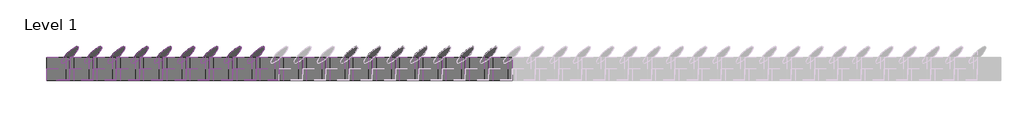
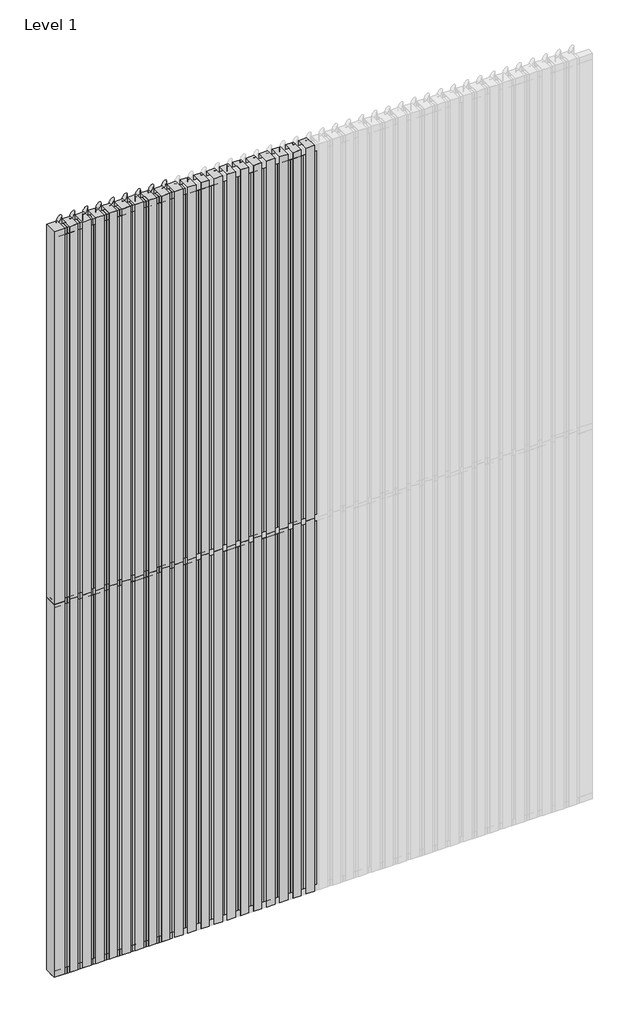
# One storey, part 1 of 4: 80 plates, 54 members.
"""IFC4 building model written with IfcOpenShell, lengths in millimetres."""

from ifc_helpers import new_model, si_unit, origin, place, context, project, spatial, transform, mapped, element, save
from components import rectangular_mullion_c274bac7, rectangular_mullion_cddbc660, rectangular_mullion_a3e25429, rectangular_mullion_ae434dd9, empty_system_panel_empty_d67cafe6, empty_system_panel_empty_80e3f5b0, empty_system_panel_empty_147de6ce

model = new_model("IFC4")

# Units and contexts
model_context = context("Model", 3, world=origin())
ifc_project = project(units=[si_unit("LENGTHUNIT", "METRE", prefix="MILLI")], contexts=[model_context])

# Site, building, storey
site = spatial("IfcSite", under=ifc_project)
building = spatial("IfcBuilding", under=site)
storey = spatial("IfcBuildingStorey", under=building, Name="Level 1", Elevation=0.0)

# Members
placement = place(None, origin())
rectangular_mullion_shape = rectangular_mullion_c274bac7(model_context)
element("IfcMember", 1, ObjectType="Rectangular Mullion : RSen_21_CWM_blade - 100 ellips - 45°_gen_duco projects", at=placement, inside=storey, context=model_context, shape_type="MappedRepresentation", body=[
    mapped(rectangular_mullion_shape, transform((1900.0, 3000.0, 0.0), x_axis=(-1.0, 0.0, 0.0), y_axis=(0.0, 1.0, 0.0), z_axis=(0.0, 0.0, -1.0))),
])
element("IfcMember", 2, ObjectType="Rectangular Mullion : RSen_21_CWM_blade - 100 ellips - 45°_gen_duco projects", at=placement, inside=storey, context=model_context, shape_type="MappedRepresentation", body=[
    mapped(rectangular_mullion_shape, transform((1800.0, 3000.0, 0.0), x_axis=(-1.0, 0.0, 0.0), y_axis=(0.0, 1.0, 0.0), z_axis=(0.0, 0.0, -1.0))),
])
element("IfcMember", 3, ObjectType="Rectangular Mullion : RSen_21_CWM_blade - 100 ellips - 45°_gen_duco projects", at=placement, inside=storey, context=model_context, shape_type="MappedRepresentation", body=[
    mapped(rectangular_mullion_shape, transform((1700.0, 3000.0, 0.0), x_axis=(-1.0, 0.0, 0.0), y_axis=(0.0, 1.0, 0.0), z_axis=(0.0, 0.0, -1.0))),
])
element("IfcMember", 4, ObjectType="Rectangular Mullion : RSen_21_CWM_blade - 100 ellips - 45°_gen_duco projects", at=placement, inside=storey, context=model_context, shape_type="MappedRepresentation", body=[
    mapped(rectangular_mullion_shape, transform((1600.0, 3000.0, 0.0), x_axis=(-1.0, 0.0, 0.0), y_axis=(0.0, 1.0, 0.0), z_axis=(0.0, 0.0, -1.0))),
])
element("IfcMember", 5, ObjectType="Rectangular Mullion : RSen_21_CWM_blade - 100 ellips - 45°_gen_duco projects", at=placement, inside=storey, context=model_context, shape_type="MappedRepresentation", body=[
    mapped(rectangular_mullion_shape, transform((1500.0, 3000.0, 0.0), x_axis=(-1.0, 0.0, 0.0), y_axis=(0.0, 1.0, 0.0), z_axis=(0.0, 0.0, -1.0))),
])
element("IfcMember", 6, ObjectType="Rectangular Mullion : RSen_21_CWM_blade - 100 ellips - 45°_gen_duco projects", at=placement, inside=storey, context=model_context, shape_type="MappedRepresentation", body=[
    mapped(rectangular_mullion_shape, transform((1400.0, 3000.0, 0.0), x_axis=(-1.0, 0.0, 0.0), y_axis=(0.0, 1.0, 0.0), z_axis=(0.0, 0.0, -1.0))),
])
element("IfcMember", 7, ObjectType="Rectangular Mullion : RSen_21_CWM_blade - 100 ellips - 45°_gen_duco projects", at=placement, inside=storey, context=model_context, shape_type="MappedRepresentation", body=[
    mapped(rectangular_mullion_shape, transform((1300.0, 3000.0, 0.0), x_axis=(-1.0, 0.0, 0.0), y_axis=(0.0, 1.0, 0.0), z_axis=(0.0, 0.0, -1.0))),
])
element("IfcMember", 8, ObjectType="Rectangular Mullion : RSen_21_CWM_blade - 100 ellips - 45°_gen_duco projects", at=placement, inside=storey, context=model_context, shape_type="MappedRepresentation", body=[
    mapped(rectangular_mullion_shape, transform((900.0, 3000.0, 0.0), x_axis=(-1.0, 0.0, 0.0), y_axis=(0.0, 1.0, 0.0), z_axis=(0.0, 0.0, -1.0))),
])
element("IfcMember", 9, ObjectType="Rectangular Mullion : RSen_21_CWM_blade - 100 ellips - 45°_gen_duco projects", at=placement, inside=storey, context=model_context, shape_type="MappedRepresentation", body=[
    mapped(rectangular_mullion_shape, transform((800.0, 3000.0, 0.0), x_axis=(-1.0, 0.0, 0.0), y_axis=(0.0, 1.0, 0.0), z_axis=(0.0, 0.0, -1.0))),
])
element("IfcMember", 10, ObjectType="Rectangular Mullion : RSen_21_CWM_blade - 100 ellips - 45°_gen_duco projects", at=placement, inside=storey, context=model_context, shape_type="MappedRepresentation", body=[
    mapped(rectangular_mullion_shape, transform((700.0, 3000.0, 0.0), x_axis=(-1.0, 0.0, 0.0), y_axis=(0.0, 1.0, 0.0), z_axis=(0.0, 0.0, -1.0))),
])
element("IfcMember", 11, ObjectType="Rectangular Mullion : RSen_21_CWM_blade - 100 ellips - 45°_gen_duco projects", at=placement, inside=storey, context=model_context, shape_type="MappedRepresentation", body=[
    mapped(rectangular_mullion_shape, transform((600.0, 3000.0, 0.0), x_axis=(-1.0, 0.0, 0.0), y_axis=(0.0, 1.0, 0.0), z_axis=(0.0, 0.0, -1.0))),
])
element("IfcMember", 12, ObjectType="Rectangular Mullion : RSen_21_CWM_blade - 100 ellips - 45°_gen_duco projects", at=placement, inside=storey, context=model_context, shape_type="MappedRepresentation", body=[
    mapped(rectangular_mullion_shape, transform((500.0, 3000.0, 0.0), x_axis=(-1.0, 0.0, 0.0), y_axis=(0.0, 1.0, 0.0), z_axis=(0.0, 0.0, -1.0))),
])
element("IfcMember", 13, ObjectType="Rectangular Mullion : RSen_21_CWM_blade - 100 ellips - 45°_gen_duco projects", at=placement, inside=storey, context=model_context, shape_type="MappedRepresentation", body=[
    mapped(rectangular_mullion_shape, transform((400.0, 3000.0, 0.0), x_axis=(-1.0, 0.0, 0.0), y_axis=(0.0, 1.0, 0.0), z_axis=(0.0, 0.0, -1.0))),
])
element("IfcMember", 14, ObjectType="Rectangular Mullion : RSen_21_CWM_blade - 100 ellips - 45°_gen_duco projects", at=placement, inside=storey, context=model_context, shape_type="MappedRepresentation", body=[
    mapped(rectangular_mullion_shape, transform((300.0, 3000.0, 0.0), x_axis=(-1.0, 0.0, 0.0), y_axis=(0.0, 1.0, 0.0), z_axis=(0.0, 0.0, -1.0))),
])
element("IfcMember", 15, ObjectType="Rectangular Mullion : RSen_21_CWM_blade - 100 ellips - 45°_gen_duco projects", at=placement, inside=storey, context=model_context, shape_type="MappedRepresentation", body=[
    mapped(rectangular_mullion_shape, transform((200.0, 3000.0, 0.0), x_axis=(-1.0, 0.0, 0.0), y_axis=(0.0, 1.0, 0.0), z_axis=(0.0, 0.0, -1.0))),
])
element("IfcMember", 16, ObjectType="Rectangular Mullion : RSen_21_CWM_blade - 100 ellips - 45°_gen_duco projects", at=placement, inside=storey, context=model_context, shape_type="MappedRepresentation", body=[
    mapped(rectangular_mullion_shape, transform((100.0, 3000.0, 0.0), x_axis=(-1.0, 0.0, 0.0), y_axis=(0.0, 1.0, 0.0), z_axis=(0.0, 0.0, -1.0))),
])
element("IfcMember", 17, ObjectType="Rectangular Mullion : RSen_21_CWM_blade - 100 ellips - 45°_gen_duco projects", at=placement, inside=storey, context=model_context, shape_type="MappedRepresentation", body=[
    mapped(rectangular_mullion_shape, transform((900.0, 3000.0, 3000.0), x_axis=(-1.0, 0.0, 0.0), y_axis=(0.0, 1.0, 0.0), z_axis=(0.0, 0.0, -1.0))),
])
element("IfcMember", 18, ObjectType="Rectangular Mullion : RSen_21_CWM_blade - 100 ellips - 45°_gen_duco projects", at=placement, inside=storey, context=model_context, shape_type="MappedRepresentation", body=[
    mapped(rectangular_mullion_shape, transform((800.0, 3000.0, 3000.0), x_axis=(-1.0, 0.0, 0.0), y_axis=(0.0, 1.0, 0.0), z_axis=(0.0, 0.0, -1.0))),
])
element("IfcMember", 19, ObjectType="Rectangular Mullion : RSen_21_CWM_blade - 100 ellips - 45°_gen_duco projects", at=placement, inside=storey, context=model_context, shape_type="MappedRepresentation", body=[
    mapped(rectangular_mullion_shape, transform((700.0, 3000.0, 3000.0), x_axis=(-1.0, 0.0, 0.0), y_axis=(0.0, 1.0, 0.0), z_axis=(0.0, 0.0, -1.0))),
])
element("IfcMember", 20, ObjectType="Rectangular Mullion : RSen_21_CWM_blade - 100 ellips - 45°_gen_duco projects", at=placement, inside=storey, context=model_context, shape_type="MappedRepresentation", body=[
    mapped(rectangular_mullion_shape, transform((600.0, 3000.0, 3000.0), x_axis=(-1.0, 0.0, 0.0), y_axis=(0.0, 1.0, 0.0), z_axis=(0.0, 0.0, -1.0))),
])
element("IfcMember", 21, ObjectType="Rectangular Mullion : RSen_21_CWM_blade - 100 ellips - 45°_gen_duco projects", at=placement, inside=storey, context=model_context, shape_type="MappedRepresentation", body=[
    mapped(rectangular_mullion_shape, transform((500.0, 3000.0, 3000.0), x_axis=(-1.0, 0.0, 0.0), y_axis=(0.0, 1.0, 0.0), z_axis=(0.0, 0.0, -1.0))),
])
element("IfcMember", 22, ObjectType="Rectangular Mullion : RSen_21_CWM_blade - 100 ellips - 45°_gen_duco projects", at=placement, inside=storey, context=model_context, shape_type="MappedRepresentation", body=[
    mapped(rectangular_mullion_shape, transform((400.0, 3000.0, 3000.0), x_axis=(-1.0, 0.0, 0.0), y_axis=(0.0, 1.0, 0.0), z_axis=(0.0, 0.0, -1.0))),
])
element("IfcMember", 23, ObjectType="Rectangular Mullion : RSen_21_CWM_blade - 100 ellips - 45°_gen_duco projects", at=placement, inside=storey, context=model_context, shape_type="MappedRepresentation", body=[
    mapped(rectangular_mullion_shape, transform((300.0, 3000.0, 3000.0), x_axis=(-1.0, 0.0, 0.0), y_axis=(0.0, 1.0, 0.0), z_axis=(0.0, 0.0, -1.0))),
])
element("IfcMember", 24, ObjectType="Rectangular Mullion : RSen_21_CWM_blade - 100 ellips - 45°_gen_duco projects", at=placement, inside=storey, context=model_context, shape_type="MappedRepresentation", body=[
    mapped(rectangular_mullion_shape, transform((200.0, 3000.0, 3000.0), x_axis=(-1.0, 0.0, 0.0), y_axis=(0.0, 1.0, 0.0), z_axis=(0.0, 0.0, -1.0))),
])
element("IfcMember", 25, ObjectType="Rectangular Mullion : RSen_21_CWM_blade - 100 ellips - 45°_gen_duco projects", at=placement, inside=storey, context=model_context, shape_type="MappedRepresentation", body=[
    mapped(rectangular_mullion_shape, transform((100.0, 3000.0, 3000.0), x_axis=(-1.0, 0.0, 0.0), y_axis=(0.0, 1.0, 0.0), z_axis=(0.0, 0.0, -1.0))),
])
rectangular_mullion_2_shape = rectangular_mullion_cddbc660(model_context)
element("IfcMember", 26, ObjectType="Rectangular Mullion : RSen_21_CWM_support profile 50x50 - left_gen_duco projects", at=placement, inside=storey, context=model_context, shape_type="MappedRepresentation", body=[
    mapped(rectangular_mullion_2_shape, transform((0.0, 3000.0, 6000.0), x_axis=(0.0, 0.0, 1.0), y_axis=(0.0, 1.0, 0.0), z_axis=(-1.0, 0.0, 0.0))),
])
element("IfcMember", 27, ObjectType="Rectangular Mullion : RSen_21_CWM_support profile 50x50 - left_gen_duco projects", at=placement, inside=storey, context=model_context, shape_type="MappedRepresentation", body=[
    mapped(rectangular_mullion_2_shape, transform((900.0, 3000.0, 6000.0), x_axis=(0.0, 0.0, 1.0), y_axis=(0.0, 1.0, 0.0), z_axis=(-1.0, 0.0, 0.0))),
])
element("IfcMember", 28, ObjectType="Rectangular Mullion : RSen_21_CWM_support profile 50x50 - left_gen_duco projects", at=placement, inside=storey, context=model_context, shape_type="MappedRepresentation", body=[
    mapped(rectangular_mullion_2_shape, transform((800.0, 3000.0, 6000.0), x_axis=(0.0, 0.0, 1.0), y_axis=(0.0, 1.0, 0.0), z_axis=(-1.0, 0.0, 0.0))),
])
element("IfcMember", 29, ObjectType="Rectangular Mullion : RSen_21_CWM_support profile 50x50 - left_gen_duco projects", at=placement, inside=storey, context=model_context, shape_type="MappedRepresentation", body=[
    mapped(rectangular_mullion_2_shape, transform((700.0, 3000.0, 6000.0), x_axis=(0.0, 0.0, 1.0), y_axis=(0.0, 1.0, 0.0), z_axis=(-1.0, 0.0, 0.0))),
])
element("IfcMember", 30, ObjectType="Rectangular Mullion : RSen_21_CWM_support profile 50x50 - left_gen_duco projects", at=placement, inside=storey, context=model_context, shape_type="MappedRepresentation", body=[
    mapped(rectangular_mullion_2_shape, transform((600.0, 3000.0, 6000.0), x_axis=(0.0, 0.0, 1.0), y_axis=(0.0, 1.0, 0.0), z_axis=(-1.0, 0.0, 0.0))),
])
element("IfcMember", 31, ObjectType="Rectangular Mullion : RSen_21_CWM_support profile 50x50 - left_gen_duco projects", at=placement, inside=storey, context=model_context, shape_type="MappedRepresentation", body=[
    mapped(rectangular_mullion_2_shape, transform((500.0, 3000.0, 6000.0), x_axis=(0.0, 0.0, 1.0), y_axis=(0.0, 1.0, 0.0), z_axis=(-1.0, 0.0, 0.0))),
])
element("IfcMember", 32, ObjectType="Rectangular Mullion : RSen_21_CWM_support profile 50x50 - left_gen_duco projects", at=placement, inside=storey, context=model_context, shape_type="MappedRepresentation", body=[
    mapped(rectangular_mullion_2_shape, transform((400.0, 3000.0, 6000.0), x_axis=(0.0, 0.0, 1.0), y_axis=(0.0, 1.0, 0.0), z_axis=(-1.0, 0.0, 0.0))),
])
element("IfcMember", 33, ObjectType="Rectangular Mullion : RSen_21_CWM_support profile 50x50 - left_gen_duco projects", at=placement, inside=storey, context=model_context, shape_type="MappedRepresentation", body=[
    mapped(rectangular_mullion_2_shape, transform((300.0, 3000.0, 6000.0), x_axis=(0.0, 0.0, 1.0), y_axis=(0.0, 1.0, 0.0), z_axis=(-1.0, 0.0, 0.0))),
])
element("IfcMember", 34, ObjectType="Rectangular Mullion : RSen_21_CWM_support profile 50x50 - left_gen_duco projects", at=placement, inside=storey, context=model_context, shape_type="MappedRepresentation", body=[
    mapped(rectangular_mullion_2_shape, transform((200.0, 3000.0, 6000.0), x_axis=(0.0, 0.0, 1.0), y_axis=(0.0, 1.0, 0.0), z_axis=(-1.0, 0.0, 0.0))),
])
element("IfcMember", 35, ObjectType="Rectangular Mullion : RSen_21_CWM_support profile 50x50 - left_gen_duco projects", at=placement, inside=storey, context=model_context, shape_type="MappedRepresentation", body=[
    mapped(rectangular_mullion_2_shape, transform((100.0, 3000.0, 6000.0), x_axis=(0.0, 0.0, 1.0), y_axis=(0.0, 1.0, 0.0), z_axis=(-1.0, 0.0, 0.0))),
])
rectangular_mullion_3_shape = rectangular_mullion_a3e25429(model_context)
element("IfcMember", 36, ObjectType="Rectangular Mullion : RSen_21_CWM_support profile 50x50 - right_gen_duco projects", at=placement, inside=storey, context=model_context, shape_type="MappedRepresentation", body=[
    mapped(rectangular_mullion_3_shape, transform((900.0, 3000.0, 0.0), x_axis=(0.0, 0.0, -1.0), y_axis=(0.0, 1.0, 0.0), z_axis=(1.0, 0.0, 0.0))),
])
element("IfcMember", 37, ObjectType="Rectangular Mullion : RSen_21_CWM_support profile 50x50 - right_gen_duco projects", at=placement, inside=storey, context=model_context, shape_type="MappedRepresentation", body=[
    mapped(rectangular_mullion_3_shape, transform((800.0, 3000.0, 0.0), x_axis=(0.0, 0.0, -1.0), y_axis=(0.0, 1.0, 0.0), z_axis=(1.0, 0.0, 0.0))),
])
element("IfcMember", 38, ObjectType="Rectangular Mullion : RSen_21_CWM_support profile 50x50 - right_gen_duco projects", at=placement, inside=storey, context=model_context, shape_type="MappedRepresentation", body=[
    mapped(rectangular_mullion_3_shape, transform((700.0, 3000.0, 0.0), x_axis=(0.0, 0.0, -1.0), y_axis=(0.0, 1.0, 0.0), z_axis=(1.0, 0.0, 0.0))),
])
element("IfcMember", 39, ObjectType="Rectangular Mullion : RSen_21_CWM_support profile 50x50 - right_gen_duco projects", at=placement, inside=storey, context=model_context, shape_type="MappedRepresentation", body=[
    mapped(rectangular_mullion_3_shape, transform((600.0, 3000.0, 0.0), x_axis=(0.0, 0.0, -1.0), y_axis=(0.0, 1.0, 0.0), z_axis=(1.0, 0.0, 0.0))),
])
element("IfcMember", 40, ObjectType="Rectangular Mullion : RSen_21_CWM_support profile 50x50 - right_gen_duco projects", at=placement, inside=storey, context=model_context, shape_type="MappedRepresentation", body=[
    mapped(rectangular_mullion_3_shape, transform((500.0, 3000.0, 0.0), x_axis=(0.0, 0.0, -1.0), y_axis=(0.0, 1.0, 0.0), z_axis=(1.0, 0.0, 0.0))),
])
element("IfcMember", 41, ObjectType="Rectangular Mullion : RSen_21_CWM_support profile 50x50 - right_gen_duco projects", at=placement, inside=storey, context=model_context, shape_type="MappedRepresentation", body=[
    mapped(rectangular_mullion_3_shape, transform((400.0, 3000.0, 0.0), x_axis=(0.0, 0.0, -1.0), y_axis=(0.0, 1.0, 0.0), z_axis=(1.0, 0.0, 0.0))),
])
element("IfcMember", 42, ObjectType="Rectangular Mullion : RSen_21_CWM_support profile 50x50 - right_gen_duco projects", at=placement, inside=storey, context=model_context, shape_type="MappedRepresentation", body=[
    mapped(rectangular_mullion_3_shape, transform((300.0, 3000.0, 0.0), x_axis=(0.0, 0.0, -1.0), y_axis=(0.0, 1.0, 0.0), z_axis=(1.0, 0.0, 0.0))),
])
element("IfcMember", 43, ObjectType="Rectangular Mullion : RSen_21_CWM_support profile 50x50 - right_gen_duco projects", at=placement, inside=storey, context=model_context, shape_type="MappedRepresentation", body=[
    mapped(rectangular_mullion_3_shape, transform((200.0, 3000.0, 0.0), x_axis=(0.0, 0.0, -1.0), y_axis=(0.0, 1.0, 0.0), z_axis=(1.0, 0.0, 0.0))),
])
element("IfcMember", 44, ObjectType="Rectangular Mullion : RSen_21_CWM_support profile 50x50 - right_gen_duco projects", at=placement, inside=storey, context=model_context, shape_type="MappedRepresentation", body=[
    mapped(rectangular_mullion_3_shape, transform((100.0, 3000.0, 0.0), x_axis=(0.0, 0.0, -1.0), y_axis=(0.0, 1.0, 0.0), z_axis=(1.0, 0.0, 0.0))),
])
rectangular_mullion_4_shape = rectangular_mullion_ae434dd9(model_context)
element("IfcMember", 45, ObjectType="Rectangular Mullion : RSen_21_CWM_support profile 50x50_gen_duco projects", at=placement, inside=storey, context=model_context, shape_type="MappedRepresentation", body=[
    mapped(rectangular_mullion_4_shape, transform((900.0, 3000.0, 3000.0), x_axis=(0.0, 0.0, 1.0), y_axis=(0.0, 1.0, 0.0), z_axis=(-1.0, 0.0, 0.0))),
])
element("IfcMember", 46, ObjectType="Rectangular Mullion : RSen_21_CWM_support profile 50x50_gen_duco projects", at=placement, inside=storey, context=model_context, shape_type="MappedRepresentation", body=[
    mapped(rectangular_mullion_4_shape, transform((800.0, 3000.0, 3000.0), x_axis=(0.0, 0.0, 1.0), y_axis=(0.0, 1.0, 0.0), z_axis=(-1.0, 0.0, 0.0))),
])
element("IfcMember", 47, ObjectType="Rectangular Mullion : RSen_21_CWM_support profile 50x50_gen_duco projects", at=placement, inside=storey, context=model_context, shape_type="MappedRepresentation", body=[
    mapped(rectangular_mullion_4_shape, transform((700.0, 3000.0, 3000.0), x_axis=(0.0, 0.0, 1.0), y_axis=(0.0, 1.0, 0.0), z_axis=(-1.0, 0.0, 0.0))),
])
element("IfcMember", 48, ObjectType="Rectangular Mullion : RSen_21_CWM_support profile 50x50_gen_duco projects", at=placement, inside=storey, context=model_context, shape_type="MappedRepresentation", body=[
    mapped(rectangular_mullion_4_shape, transform((600.0, 3000.0, 3000.0), x_axis=(0.0, 0.0, 1.0), y_axis=(0.0, 1.0, 0.0), z_axis=(-1.0, 0.0, 0.0))),
])
element("IfcMember", 49, ObjectType="Rectangular Mullion : RSen_21_CWM_support profile 50x50_gen_duco projects", at=placement, inside=storey, context=model_context, shape_type="MappedRepresentation", body=[
    mapped(rectangular_mullion_4_shape, transform((500.0, 3000.0, 3000.0), x_axis=(0.0, 0.0, 1.0), y_axis=(0.0, 1.0, 0.0), z_axis=(-1.0, 0.0, 0.0))),
])
element("IfcMember", 50, ObjectType="Rectangular Mullion : RSen_21_CWM_support profile 50x50_gen_duco projects", at=placement, inside=storey, context=model_context, shape_type="MappedRepresentation", body=[
    mapped(rectangular_mullion_4_shape, transform((400.0, 3000.0, 3000.0), x_axis=(0.0, 0.0, 1.0), y_axis=(0.0, 1.0, 0.0), z_axis=(-1.0, 0.0, 0.0))),
])
element("IfcMember", 51, ObjectType="Rectangular Mullion : RSen_21_CWM_support profile 50x50_gen_duco projects", at=placement, inside=storey, context=model_context, shape_type="MappedRepresentation", body=[
    mapped(rectangular_mullion_4_shape, transform((300.0, 3000.0, 3000.0), x_axis=(0.0, 0.0, 1.0), y_axis=(0.0, 1.0, 0.0), z_axis=(-1.0, 0.0, 0.0))),
])
element("IfcMember", 52, ObjectType="Rectangular Mullion : RSen_21_CWM_support profile 50x50_gen_duco projects", at=placement, inside=storey, context=model_context, shape_type="MappedRepresentation", body=[
    mapped(rectangular_mullion_4_shape, transform((200.0, 3000.0, 3000.0), x_axis=(0.0, 0.0, 1.0), y_axis=(0.0, 1.0, 0.0), z_axis=(-1.0, 0.0, 0.0))),
])
element("IfcMember", 53, ObjectType="Rectangular Mullion : RSen_21_CWM_support profile 50x50_gen_duco projects", at=placement, inside=storey, context=model_context, shape_type="MappedRepresentation", body=[
    mapped(rectangular_mullion_4_shape, transform((100.0, 3000.0, 3000.0), x_axis=(0.0, 0.0, 1.0), y_axis=(0.0, 1.0, 0.0), z_axis=(-1.0, 0.0, 0.0))),
])
element("IfcMember", 54, ObjectType="Rectangular Mullion : RSen_21_CWM_support profile 50x50_gen_duco projects", at=placement, inside=storey, context=model_context, shape_type="MappedRepresentation", body=[
    mapped(rectangular_mullion_4_shape, transform((0.0, 3000.0, 3000.0), x_axis=(0.0, 0.0, 1.0), y_axis=(0.0, 1.0, 0.0), z_axis=(-1.0, 0.0, 0.0))),
])

# Plates
empty_system_panel_empty_shape = empty_system_panel_empty_d67cafe6(model_context)
element("IfcPlate", 55, ObjectType="Empty System Panel : Empty", at=placement, inside=storey, context=model_context, shape_type="MappedRepresentation", body=[
    mapped(empty_system_panel_empty_shape, transform((40.8076118, 3000.0, 0.0), x_axis=(-1.0, 0.0, 0.0), y_axis=(0.0, -1.0, 0.0), z_axis=(0.0, 0.0, 1.0))),
])
element("IfcPlate", 56, ObjectType="Empty System Panel : Empty", at=placement, inside=storey, context=model_context, shape_type="MappedRepresentation", body=[
    mapped(empty_system_panel_empty_shape, transform((40.8076118, 3000.0, 3000.0), x_axis=(-1.0, 0.0, 0.0), y_axis=(0.0, -1.0, 0.0), z_axis=(0.0, 0.0, 1.0))),
])
empty_system_panel_empty_2_shape = empty_system_panel_empty_80e3f5b0(model_context)
element("IfcPlate", 57, ObjectType="Empty System Panel : Empty", at=placement, inside=storey, context=model_context, shape_type="MappedRepresentation", body=[
    mapped(empty_system_panel_empty_2_shape, transform((1950.0, 3000.0, 0.0), x_axis=(-1.0, 0.0, 0.0), y_axis=(0.0, -1.0, 0.0), z_axis=(0.0, 0.0, 1.0))),
])
element("IfcPlate", 58, ObjectType="Empty System Panel : Empty", at=placement, inside=storey, context=model_context, shape_type="MappedRepresentation", body=[
    mapped(empty_system_panel_empty_2_shape, transform((1850.0, 3000.0, 0.0), x_axis=(-1.0, 0.0, 0.0), y_axis=(0.0, -1.0, 0.0), z_axis=(0.0, 0.0, 1.0))),
])
element("IfcPlate", 59, ObjectType="Empty System Panel : Empty", at=placement, inside=storey, context=model_context, shape_type="MappedRepresentation", body=[
    mapped(empty_system_panel_empty_2_shape, transform((1750.0, 3000.0, 0.0), x_axis=(-1.0, 0.0, 0.0), y_axis=(0.0, -1.0, 0.0), z_axis=(0.0, 0.0, 1.0))),
])
element("IfcPlate", 60, ObjectType="Empty System Panel : Empty", at=placement, inside=storey, context=model_context, shape_type="MappedRepresentation", body=[
    mapped(empty_system_panel_empty_2_shape, transform((1650.0, 3000.0, 0.0), x_axis=(-1.0, 0.0, 0.0), y_axis=(0.0, -1.0, 0.0), z_axis=(0.0, 0.0, 1.0))),
])
element("IfcPlate", 61, ObjectType="Empty System Panel : Empty", at=placement, inside=storey, context=model_context, shape_type="MappedRepresentation", body=[
    mapped(empty_system_panel_empty_2_shape, transform((1550.0, 3000.0, 0.0), x_axis=(-1.0, 0.0, 0.0), y_axis=(0.0, -1.0, 0.0), z_axis=(0.0, 0.0, 1.0))),
])
element("IfcPlate", 62, ObjectType="Empty System Panel : Empty", at=placement, inside=storey, context=model_context, shape_type="MappedRepresentation", body=[
    mapped(empty_system_panel_empty_2_shape, transform((1450.0, 3000.0, 0.0), x_axis=(-1.0, 0.0, 0.0), y_axis=(0.0, -1.0, 0.0), z_axis=(0.0, 0.0, 1.0))),
])
element("IfcPlate", 63, ObjectType="Empty System Panel : Empty", at=placement, inside=storey, context=model_context, shape_type="MappedRepresentation", body=[
    mapped(empty_system_panel_empty_2_shape, transform((1350.0, 3000.0, 0.0), x_axis=(-1.0, 0.0, 0.0), y_axis=(0.0, -1.0, 0.0), z_axis=(0.0, 0.0, 1.0))),
])
element("IfcPlate", 64, ObjectType="Empty System Panel : Empty", at=placement, inside=storey, context=model_context, shape_type="MappedRepresentation", body=[
    mapped(empty_system_panel_empty_2_shape, transform((1250.0, 3000.0, 0.0), x_axis=(-1.0, 0.0, 0.0), y_axis=(0.0, -1.0, 0.0), z_axis=(0.0, 0.0, 1.0))),
])
element("IfcPlate", 65, ObjectType="Empty System Panel : Empty", at=placement, inside=storey, context=model_context, shape_type="MappedRepresentation", body=[
    mapped(empty_system_panel_empty_2_shape, transform((1150.0, 3000.0, 0.0), x_axis=(-1.0, 0.0, 0.0), y_axis=(0.0, -1.0, 0.0), z_axis=(0.0, 0.0, 1.0))),
])
element("IfcPlate", 66, ObjectType="Empty System Panel : Empty", at=placement, inside=storey, context=model_context, shape_type="MappedRepresentation", body=[
    mapped(empty_system_panel_empty_2_shape, transform((1050.0, 3000.0, 0.0), x_axis=(-1.0, 0.0, 0.0), y_axis=(0.0, -1.0, 0.0), z_axis=(0.0, 0.0, 1.0))),
])
element("IfcPlate", 67, ObjectType="Empty System Panel : Empty", at=placement, inside=storey, context=model_context, shape_type="MappedRepresentation", body=[
    mapped(empty_system_panel_empty_2_shape, transform((950.0, 3000.0, 0.0), x_axis=(-1.0, 0.0, 0.0), y_axis=(0.0, -1.0, 0.0), z_axis=(0.0, 0.0, 1.0))),
])
element("IfcPlate", 68, ObjectType="Empty System Panel : Empty", at=placement, inside=storey, context=model_context, shape_type="MappedRepresentation", body=[
    mapped(empty_system_panel_empty_2_shape, transform((850.0, 3000.0, 0.0), x_axis=(-1.0, 0.0, 0.0), y_axis=(0.0, -1.0, 0.0), z_axis=(0.0, 0.0, 1.0))),
])
element("IfcPlate", 69, ObjectType="Empty System Panel : Empty", at=placement, inside=storey, context=model_context, shape_type="MappedRepresentation", body=[
    mapped(empty_system_panel_empty_2_shape, transform((750.0, 3000.0, 0.0), x_axis=(-1.0, 0.0, 0.0), y_axis=(0.0, -1.0, 0.0), z_axis=(0.0, 0.0, 1.0))),
])
element("IfcPlate", 70, ObjectType="Empty System Panel : Empty", at=placement, inside=storey, context=model_context, shape_type="MappedRepresentation", body=[
    mapped(empty_system_panel_empty_2_shape, transform((650.0, 3000.0, 0.0), x_axis=(-1.0, 0.0, 0.0), y_axis=(0.0, -1.0, 0.0), z_axis=(0.0, 0.0, 1.0))),
])
element("IfcPlate", 71, ObjectType="Empty System Panel : Empty", at=placement, inside=storey, context=model_context, shape_type="MappedRepresentation", body=[
    mapped(empty_system_panel_empty_2_shape, transform((550.0, 3000.0, 0.0), x_axis=(-1.0, 0.0, 0.0), y_axis=(0.0, -1.0, 0.0), z_axis=(0.0, 0.0, 1.0))),
])
element("IfcPlate", 72, ObjectType="Empty System Panel : Empty", at=placement, inside=storey, context=model_context, shape_type="MappedRepresentation", body=[
    mapped(empty_system_panel_empty_2_shape, transform((450.0, 3000.0, 0.0), x_axis=(-1.0, 0.0, 0.0), y_axis=(0.0, -1.0, 0.0), z_axis=(0.0, 0.0, 1.0))),
])
element("IfcPlate", 73, ObjectType="Empty System Panel : Empty", at=placement, inside=storey, context=model_context, shape_type="MappedRepresentation", body=[
    mapped(empty_system_panel_empty_2_shape, transform((350.0, 3000.0, 0.0), x_axis=(-1.0, 0.0, 0.0), y_axis=(0.0, -1.0, 0.0), z_axis=(0.0, 0.0, 1.0))),
])
element("IfcPlate", 74, ObjectType="Empty System Panel : Empty", at=placement, inside=storey, context=model_context, shape_type="MappedRepresentation", body=[
    mapped(empty_system_panel_empty_2_shape, transform((250.0, 3000.0, 0.0), x_axis=(-1.0, 0.0, 0.0), y_axis=(0.0, -1.0, 0.0), z_axis=(0.0, 0.0, 1.0))),
])
element("IfcPlate", 75, ObjectType="Empty System Panel : Empty", at=placement, inside=storey, context=model_context, shape_type="MappedRepresentation", body=[
    mapped(empty_system_panel_empty_2_shape, transform((150.0, 3000.0, 0.0), x_axis=(-1.0, 0.0, 0.0), y_axis=(0.0, -1.0, 0.0), z_axis=(0.0, 0.0, 1.0))),
])
element("IfcPlate", 76, ObjectType="Empty System Panel : Empty", at=placement, inside=storey, context=model_context, shape_type="MappedRepresentation", body=[
    mapped(empty_system_panel_empty_2_shape, transform((1950.0, 3000.0, 3000.0), x_axis=(-1.0, 0.0, 0.0), y_axis=(0.0, -1.0, 0.0), z_axis=(0.0, 0.0, 1.0))),
])
element("IfcPlate", 77, ObjectType="Empty System Panel : Empty", at=placement, inside=storey, context=model_context, shape_type="MappedRepresentation", body=[
    mapped(empty_system_panel_empty_2_shape, transform((1850.0, 3000.0, 3000.0), x_axis=(-1.0, 0.0, 0.0), y_axis=(0.0, -1.0, 0.0), z_axis=(0.0, 0.0, 1.0))),
])
element("IfcPlate", 78, ObjectType="Empty System Panel : Empty", at=placement, inside=storey, context=model_context, shape_type="MappedRepresentation", body=[
    mapped(empty_system_panel_empty_2_shape, transform((1750.0, 3000.0, 3000.0), x_axis=(-1.0, 0.0, 0.0), y_axis=(0.0, -1.0, 0.0), z_axis=(0.0, 0.0, 1.0))),
])
element("IfcPlate", 79, ObjectType="Empty System Panel : Empty", at=placement, inside=storey, context=model_context, shape_type="MappedRepresentation", body=[
    mapped(empty_system_panel_empty_2_shape, transform((1650.0, 3000.0, 3000.0), x_axis=(-1.0, 0.0, 0.0), y_axis=(0.0, -1.0, 0.0), z_axis=(0.0, 0.0, 1.0))),
])
element("IfcPlate", 80, ObjectType="Empty System Panel : Empty", at=placement, inside=storey, context=model_context, shape_type="MappedRepresentation", body=[
    mapped(empty_system_panel_empty_2_shape, transform((1550.0, 3000.0, 3000.0), x_axis=(-1.0, 0.0, 0.0), y_axis=(0.0, -1.0, 0.0), z_axis=(0.0, 0.0, 1.0))),
])
element("IfcPlate", 81, ObjectType="Empty System Panel : Empty", at=placement, inside=storey, context=model_context, shape_type="MappedRepresentation", body=[
    mapped(empty_system_panel_empty_2_shape, transform((1450.0, 3000.0, 3000.0), x_axis=(-1.0, 0.0, 0.0), y_axis=(0.0, -1.0, 0.0), z_axis=(0.0, 0.0, 1.0))),
])
element("IfcPlate", 82, ObjectType="Empty System Panel : Empty", at=placement, inside=storey, context=model_context, shape_type="MappedRepresentation", body=[
    mapped(empty_system_panel_empty_2_shape, transform((1350.0, 3000.0, 3000.0), x_axis=(-1.0, 0.0, 0.0), y_axis=(0.0, -1.0, 0.0), z_axis=(0.0, 0.0, 1.0))),
])
element("IfcPlate", 83, ObjectType="Empty System Panel : Empty", at=placement, inside=storey, context=model_context, shape_type="MappedRepresentation", body=[
    mapped(empty_system_panel_empty_2_shape, transform((1250.0, 3000.0, 3000.0), x_axis=(-1.0, 0.0, 0.0), y_axis=(0.0, -1.0, 0.0), z_axis=(0.0, 0.0, 1.0))),
])
element("IfcPlate", 84, ObjectType="Empty System Panel : Empty", at=placement, inside=storey, context=model_context, shape_type="MappedRepresentation", body=[
    mapped(empty_system_panel_empty_2_shape, transform((1150.0, 3000.0, 3000.0), x_axis=(-1.0, 0.0, 0.0), y_axis=(0.0, -1.0, 0.0), z_axis=(0.0, 0.0, 1.0))),
])
element("IfcPlate", 85, ObjectType="Empty System Panel : Empty", at=placement, inside=storey, context=model_context, shape_type="MappedRepresentation", body=[
    mapped(empty_system_panel_empty_2_shape, transform((1050.0, 3000.0, 3000.0), x_axis=(-1.0, 0.0, 0.0), y_axis=(0.0, -1.0, 0.0), z_axis=(0.0, 0.0, 1.0))),
])
element("IfcPlate", 86, ObjectType="Empty System Panel : Empty", at=placement, inside=storey, context=model_context, shape_type="MappedRepresentation", body=[
    mapped(empty_system_panel_empty_2_shape, transform((950.0, 3000.0, 3000.0), x_axis=(-1.0, 0.0, 0.0), y_axis=(0.0, -1.0, 0.0), z_axis=(0.0, 0.0, 1.0))),
])
element("IfcPlate", 87, ObjectType="Empty System Panel : Empty", at=placement, inside=storey, context=model_context, shape_type="MappedRepresentation", body=[
    mapped(empty_system_panel_empty_2_shape, transform((850.0, 3000.0, 3000.0), x_axis=(-1.0, 0.0, 0.0), y_axis=(0.0, -1.0, 0.0), z_axis=(0.0, 0.0, 1.0))),
])
element("IfcPlate", 88, ObjectType="Empty System Panel : Empty", at=placement, inside=storey, context=model_context, shape_type="MappedRepresentation", body=[
    mapped(empty_system_panel_empty_2_shape, transform((750.0, 3000.0, 3000.0), x_axis=(-1.0, 0.0, 0.0), y_axis=(0.0, -1.0, 0.0), z_axis=(0.0, 0.0, 1.0))),
])
element("IfcPlate", 89, ObjectType="Empty System Panel : Empty", at=placement, inside=storey, context=model_context, shape_type="MappedRepresentation", body=[
    mapped(empty_system_panel_empty_2_shape, transform((650.0, 3000.0, 3000.0), x_axis=(-1.0, 0.0, 0.0), y_axis=(0.0, -1.0, 0.0), z_axis=(0.0, 0.0, 1.0))),
])
element("IfcPlate", 90, ObjectType="Empty System Panel : Empty", at=placement, inside=storey, context=model_context, shape_type="MappedRepresentation", body=[
    mapped(empty_system_panel_empty_2_shape, transform((550.0, 3000.0, 3000.0), x_axis=(-1.0, 0.0, 0.0), y_axis=(0.0, -1.0, 0.0), z_axis=(0.0, 0.0, 1.0))),
])
element("IfcPlate", 91, ObjectType="Empty System Panel : Empty", at=placement, inside=storey, context=model_context, shape_type="MappedRepresentation", body=[
    mapped(empty_system_panel_empty_2_shape, transform((450.0, 3000.0, 3000.0), x_axis=(-1.0, 0.0, 0.0), y_axis=(0.0, -1.0, 0.0), z_axis=(0.0, 0.0, 1.0))),
])
element("IfcPlate", 92, ObjectType="Empty System Panel : Empty", at=placement, inside=storey, context=model_context, shape_type="MappedRepresentation", body=[
    mapped(empty_system_panel_empty_2_shape, transform((350.0, 3000.0, 3000.0), x_axis=(-1.0, 0.0, 0.0), y_axis=(0.0, -1.0, 0.0), z_axis=(0.0, 0.0, 1.0))),
])
element("IfcPlate", 93, ObjectType="Empty System Panel : Empty", at=placement, inside=storey, context=model_context, shape_type="MappedRepresentation", body=[
    mapped(empty_system_panel_empty_2_shape, transform((250.0, 3000.0, 3000.0), x_axis=(-1.0, 0.0, 0.0), y_axis=(0.0, -1.0, 0.0), z_axis=(0.0, 0.0, 1.0))),
])
element("IfcPlate", 94, ObjectType="Empty System Panel : Empty", at=placement, inside=storey, context=model_context, shape_type="MappedRepresentation", body=[
    mapped(empty_system_panel_empty_2_shape, transform((150.0, 3000.0, 3000.0), x_axis=(-1.0, 0.0, 0.0), y_axis=(0.0, -1.0, 0.0), z_axis=(0.0, 0.0, 1.0))),
])
empty_system_panel_empty_3_shape = empty_system_panel_empty_147de6ce(model_context)
element("IfcPlate", 95, ObjectType="Empty System Panel : Empty", at=placement, inside=storey, context=model_context, shape_type="MappedRepresentation", body=[
    mapped(empty_system_panel_empty_3_shape, transform((1950.0, 3000.0, 50.0), x_axis=(-1.0, 0.0, 0.0), y_axis=(0.0, -1.0, 0.0), z_axis=(0.0, 0.0, 1.0))),
])
element("IfcPlate", 96, ObjectType="Empty System Panel : Empty", at=placement, inside=storey, context=model_context, shape_type="MappedRepresentation", body=[
    mapped(empty_system_panel_empty_3_shape, transform((1850.0, 3000.0, 50.0), x_axis=(-1.0, 0.0, 0.0), y_axis=(0.0, -1.0, 0.0), z_axis=(0.0, 0.0, 1.0))),
])
element("IfcPlate", 97, ObjectType="Empty System Panel : Empty", at=placement, inside=storey, context=model_context, shape_type="MappedRepresentation", body=[
    mapped(empty_system_panel_empty_3_shape, transform((1750.0, 3000.0, 50.0), x_axis=(-1.0, 0.0, 0.0), y_axis=(0.0, -1.0, 0.0), z_axis=(0.0, 0.0, 1.0))),
])
element("IfcPlate", 98, ObjectType="Empty System Panel : Empty", at=placement, inside=storey, context=model_context, shape_type="MappedRepresentation", body=[
    mapped(empty_system_panel_empty_3_shape, transform((1650.0, 3000.0, 50.0), x_axis=(-1.0, 0.0, 0.0), y_axis=(0.0, -1.0, 0.0), z_axis=(0.0, 0.0, 1.0))),
])
element("IfcPlate", 99, ObjectType="Empty System Panel : Empty", at=placement, inside=storey, context=model_context, shape_type="MappedRepresentation", body=[
    mapped(empty_system_panel_empty_3_shape, transform((1550.0, 3000.0, 50.0), x_axis=(-1.0, 0.0, 0.0), y_axis=(0.0, -1.0, 0.0), z_axis=(0.0, 0.0, 1.0))),
])
element("IfcPlate", 100, ObjectType="Empty System Panel : Empty", at=placement, inside=storey, context=model_context, shape_type="MappedRepresentation", body=[
    mapped(empty_system_panel_empty_3_shape, transform((1450.0, 3000.0, 50.0), x_axis=(-1.0, 0.0, 0.0), y_axis=(0.0, -1.0, 0.0), z_axis=(0.0, 0.0, 1.0))),
])
element("IfcPlate", 101, ObjectType="Empty System Panel : Empty", at=placement, inside=storey, context=model_context, shape_type="MappedRepresentation", body=[
    mapped(empty_system_panel_empty_3_shape, transform((1350.0, 3000.0, 50.0), x_axis=(-1.0, 0.0, 0.0), y_axis=(0.0, -1.0, 0.0), z_axis=(0.0, 0.0, 1.0))),
])
element("IfcPlate", 102, ObjectType="Empty System Panel : Empty", at=placement, inside=storey, context=model_context, shape_type="MappedRepresentation", body=[
    mapped(empty_system_panel_empty_3_shape, transform((1250.0, 3000.0, 50.0), x_axis=(-1.0, 0.0, 0.0), y_axis=(0.0, -1.0, 0.0), z_axis=(0.0, 0.0, 1.0))),
])
element("IfcPlate", 103, ObjectType="Empty System Panel : Empty", at=placement, inside=storey, context=model_context, shape_type="MappedRepresentation", body=[
    mapped(empty_system_panel_empty_3_shape, transform((1150.0, 3000.0, 50.0), x_axis=(-1.0, 0.0, 0.0), y_axis=(0.0, -1.0, 0.0), z_axis=(0.0, 0.0, 1.0))),
])
element("IfcPlate", 104, ObjectType="Empty System Panel : Empty", at=placement, inside=storey, context=model_context, shape_type="MappedRepresentation", body=[
    mapped(empty_system_panel_empty_3_shape, transform((1050.0, 3000.0, 50.0), x_axis=(-1.0, 0.0, 0.0), y_axis=(0.0, -1.0, 0.0), z_axis=(0.0, 0.0, 1.0))),
])
element("IfcPlate", 105, ObjectType="Empty System Panel : Empty", at=placement, inside=storey, context=model_context, shape_type="MappedRepresentation", body=[
    mapped(empty_system_panel_empty_3_shape, transform((950.0, 3000.0, 50.0), x_axis=(-1.0, 0.0, 0.0), y_axis=(0.0, -1.0, 0.0), z_axis=(0.0, 0.0, 1.0))),
])
element("IfcPlate", 106, ObjectType="Empty System Panel : Empty", at=placement, inside=storey, context=model_context, shape_type="MappedRepresentation", body=[
    mapped(empty_system_panel_empty_3_shape, transform((850.0, 3000.0, 50.0), x_axis=(-1.0, 0.0, 0.0), y_axis=(0.0, -1.0, 0.0), z_axis=(0.0, 0.0, 1.0))),
])
element("IfcPlate", 107, ObjectType="Empty System Panel : Empty", at=placement, inside=storey, context=model_context, shape_type="MappedRepresentation", body=[
    mapped(empty_system_panel_empty_3_shape, transform((750.0, 3000.0, 50.0), x_axis=(-1.0, 0.0, 0.0), y_axis=(0.0, -1.0, 0.0), z_axis=(0.0, 0.0, 1.0))),
])
element("IfcPlate", 108, ObjectType="Empty System Panel : Empty", at=placement, inside=storey, context=model_context, shape_type="MappedRepresentation", body=[
    mapped(empty_system_panel_empty_3_shape, transform((650.0, 3000.0, 50.0), x_axis=(-1.0, 0.0, 0.0), y_axis=(0.0, -1.0, 0.0), z_axis=(0.0, 0.0, 1.0))),
])
element("IfcPlate", 109, ObjectType="Empty System Panel : Empty", at=placement, inside=storey, context=model_context, shape_type="MappedRepresentation", body=[
    mapped(empty_system_panel_empty_3_shape, transform((550.0, 3000.0, 50.0), x_axis=(-1.0, 0.0, 0.0), y_axis=(0.0, -1.0, 0.0), z_axis=(0.0, 0.0, 1.0))),
])
element("IfcPlate", 110, ObjectType="Empty System Panel : Empty", at=placement, inside=storey, context=model_context, shape_type="MappedRepresentation", body=[
    mapped(empty_system_panel_empty_3_shape, transform((450.0, 3000.0, 50.0), x_axis=(-1.0, 0.0, 0.0), y_axis=(0.0, -1.0, 0.0), z_axis=(0.0, 0.0, 1.0))),
])
element("IfcPlate", 111, ObjectType="Empty System Panel : Empty", at=placement, inside=storey, context=model_context, shape_type="MappedRepresentation", body=[
    mapped(empty_system_panel_empty_3_shape, transform((350.0, 3000.0, 50.0), x_axis=(-1.0, 0.0, 0.0), y_axis=(0.0, -1.0, 0.0), z_axis=(0.0, 0.0, 1.0))),
])
element("IfcPlate", 112, ObjectType="Empty System Panel : Empty", at=placement, inside=storey, context=model_context, shape_type="MappedRepresentation", body=[
    mapped(empty_system_panel_empty_3_shape, transform((250.0, 3000.0, 50.0), x_axis=(-1.0, 0.0, 0.0), y_axis=(0.0, -1.0, 0.0), z_axis=(0.0, 0.0, 1.0))),
])
element("IfcPlate", 113, ObjectType="Empty System Panel : Empty", at=placement, inside=storey, context=model_context, shape_type="MappedRepresentation", body=[
    mapped(empty_system_panel_empty_3_shape, transform((150.0, 3000.0, 50.0), x_axis=(-1.0, 0.0, 0.0), y_axis=(0.0, -1.0, 0.0), z_axis=(0.0, 0.0, 1.0))),
])
element("IfcPlate", 114, ObjectType="Empty System Panel : Empty", at=placement, inside=storey, context=model_context, shape_type="MappedRepresentation", body=[
    mapped(empty_system_panel_empty_3_shape, transform((50.0, 3000.0, 50.0), x_axis=(-1.0, 0.0, 0.0), y_axis=(0.0, -1.0, 0.0), z_axis=(0.0, 0.0, 1.0))),
])
element("IfcPlate", 115, ObjectType="Empty System Panel : Empty", at=placement, inside=storey, context=model_context, shape_type="MappedRepresentation", body=[
    mapped(empty_system_panel_empty_3_shape, transform((1950.0, 3000.0, 3025.0), x_axis=(-1.0, 0.0, 0.0), y_axis=(0.0, -1.0, 0.0), z_axis=(0.0, 0.0, 1.0))),
])
element("IfcPlate", 116, ObjectType="Empty System Panel : Empty", at=placement, inside=storey, context=model_context, shape_type="MappedRepresentation", body=[
    mapped(empty_system_panel_empty_3_shape, transform((1850.0, 3000.0, 3025.0), x_axis=(-1.0, 0.0, 0.0), y_axis=(0.0, -1.0, 0.0), z_axis=(0.0, 0.0, 1.0))),
])
element("IfcPlate", 117, ObjectType="Empty System Panel : Empty", at=placement, inside=storey, context=model_context, shape_type="MappedRepresentation", body=[
    mapped(empty_system_panel_empty_3_shape, transform((1750.0, 3000.0, 3025.0), x_axis=(-1.0, 0.0, 0.0), y_axis=(0.0, -1.0, 0.0), z_axis=(0.0, 0.0, 1.0))),
])
element("IfcPlate", 118, ObjectType="Empty System Panel : Empty", at=placement, inside=storey, context=model_context, shape_type="MappedRepresentation", body=[
    mapped(empty_system_panel_empty_3_shape, transform((1650.0, 3000.0, 3025.0), x_axis=(-1.0, 0.0, 0.0), y_axis=(0.0, -1.0, 0.0), z_axis=(0.0, 0.0, 1.0))),
])
element("IfcPlate", 119, ObjectType="Empty System Panel : Empty", at=placement, inside=storey, context=model_context, shape_type="MappedRepresentation", body=[
    mapped(empty_system_panel_empty_3_shape, transform((1550.0, 3000.0, 3025.0), x_axis=(-1.0, 0.0, 0.0), y_axis=(0.0, -1.0, 0.0), z_axis=(0.0, 0.0, 1.0))),
])
element("IfcPlate", 120, ObjectType="Empty System Panel : Empty", at=placement, inside=storey, context=model_context, shape_type="MappedRepresentation", body=[
    mapped(empty_system_panel_empty_3_shape, transform((1450.0, 3000.0, 3025.0), x_axis=(-1.0, 0.0, 0.0), y_axis=(0.0, -1.0, 0.0), z_axis=(0.0, 0.0, 1.0))),
])
element("IfcPlate", 121, ObjectType="Empty System Panel : Empty", at=placement, inside=storey, context=model_context, shape_type="MappedRepresentation", body=[
    mapped(empty_system_panel_empty_3_shape, transform((1350.0, 3000.0, 3025.0), x_axis=(-1.0, 0.0, 0.0), y_axis=(0.0, -1.0, 0.0), z_axis=(0.0, 0.0, 1.0))),
])
element("IfcPlate", 122, ObjectType="Empty System Panel : Empty", at=placement, inside=storey, context=model_context, shape_type="MappedRepresentation", body=[
    mapped(empty_system_panel_empty_3_shape, transform((1250.0, 3000.0, 3025.0), x_axis=(-1.0, 0.0, 0.0), y_axis=(0.0, -1.0, 0.0), z_axis=(0.0, 0.0, 1.0))),
])
element("IfcPlate", 123, ObjectType="Empty System Panel : Empty", at=placement, inside=storey, context=model_context, shape_type="MappedRepresentation", body=[
    mapped(empty_system_panel_empty_3_shape, transform((1150.0, 3000.0, 3025.0), x_axis=(-1.0, 0.0, 0.0), y_axis=(0.0, -1.0, 0.0), z_axis=(0.0, 0.0, 1.0))),
])
element("IfcPlate", 124, ObjectType="Empty System Panel : Empty", at=placement, inside=storey, context=model_context, shape_type="MappedRepresentation", body=[
    mapped(empty_system_panel_empty_3_shape, transform((1050.0, 3000.0, 3025.0), x_axis=(-1.0, 0.0, 0.0), y_axis=(0.0, -1.0, 0.0), z_axis=(0.0, 0.0, 1.0))),
])
element("IfcPlate", 125, ObjectType="Empty System Panel : Empty", at=placement, inside=storey, context=model_context, shape_type="MappedRepresentation", body=[
    mapped(empty_system_panel_empty_3_shape, transform((950.0, 3000.0, 3025.0), x_axis=(-1.0, 0.0, 0.0), y_axis=(0.0, -1.0, 0.0), z_axis=(0.0, 0.0, 1.0))),
])
element("IfcPlate", 126, ObjectType="Empty System Panel : Empty", at=placement, inside=storey, context=model_context, shape_type="MappedRepresentation", body=[
    mapped(empty_system_panel_empty_3_shape, transform((850.0, 3000.0, 3025.0), x_axis=(-1.0, 0.0, 0.0), y_axis=(0.0, -1.0, 0.0), z_axis=(0.0, 0.0, 1.0))),
])
element("IfcPlate", 127, ObjectType="Empty System Panel : Empty", at=placement, inside=storey, context=model_context, shape_type="MappedRepresentation", body=[
    mapped(empty_system_panel_empty_3_shape, transform((750.0, 3000.0, 3025.0), x_axis=(-1.0, 0.0, 0.0), y_axis=(0.0, -1.0, 0.0), z_axis=(0.0, 0.0, 1.0))),
])
element("IfcPlate", 128, ObjectType="Empty System Panel : Empty", at=placement, inside=storey, context=model_context, shape_type="MappedRepresentation", body=[
    mapped(empty_system_panel_empty_3_shape, transform((650.0, 3000.0, 3025.0), x_axis=(-1.0, 0.0, 0.0), y_axis=(0.0, -1.0, 0.0), z_axis=(0.0, 0.0, 1.0))),
])
element("IfcPlate", 129, ObjectType="Empty System Panel : Empty", at=placement, inside=storey, context=model_context, shape_type="MappedRepresentation", body=[
    mapped(empty_system_panel_empty_3_shape, transform((550.0, 3000.0, 3025.0), x_axis=(-1.0, 0.0, 0.0), y_axis=(0.0, -1.0, 0.0), z_axis=(0.0, 0.0, 1.0))),
])
element("IfcPlate", 130, ObjectType="Empty System Panel : Empty", at=placement, inside=storey, context=model_context, shape_type="MappedRepresentation", body=[
    mapped(empty_system_panel_empty_3_shape, transform((450.0, 3000.0, 3025.0), x_axis=(-1.0, 0.0, 0.0), y_axis=(0.0, -1.0, 0.0), z_axis=(0.0, 0.0, 1.0))),
])
element("IfcPlate", 131, ObjectType="Empty System Panel : Empty", at=placement, inside=storey, context=model_context, shape_type="MappedRepresentation", body=[
    mapped(empty_system_panel_empty_3_shape, transform((350.0, 3000.0, 3025.0), x_axis=(-1.0, 0.0, 0.0), y_axis=(0.0, -1.0, 0.0), z_axis=(0.0, 0.0, 1.0))),
])
element("IfcPlate", 132, ObjectType="Empty System Panel : Empty", at=placement, inside=storey, context=model_context, shape_type="MappedRepresentation", body=[
    mapped(empty_system_panel_empty_3_shape, transform((250.0, 3000.0, 3025.0), x_axis=(-1.0, 0.0, 0.0), y_axis=(0.0, -1.0, 0.0), z_axis=(0.0, 0.0, 1.0))),
])
element("IfcPlate", 133, ObjectType="Empty System Panel : Empty", at=placement, inside=storey, context=model_context, shape_type="MappedRepresentation", body=[
    mapped(empty_system_panel_empty_3_shape, transform((150.0, 3000.0, 3025.0), x_axis=(-1.0, 0.0, 0.0), y_axis=(0.0, -1.0, 0.0), z_axis=(0.0, 0.0, 1.0))),
])
element("IfcPlate", 134, ObjectType="Empty System Panel : Empty", at=placement, inside=storey, context=model_context, shape_type="MappedRepresentation", body=[
    mapped(empty_system_panel_empty_3_shape, transform((50.0, 3000.0, 3025.0), x_axis=(-1.0, 0.0, 0.0), y_axis=(0.0, -1.0, 0.0), z_axis=(0.0, 0.0, 1.0))),
])

save(model, "model.ifc")
